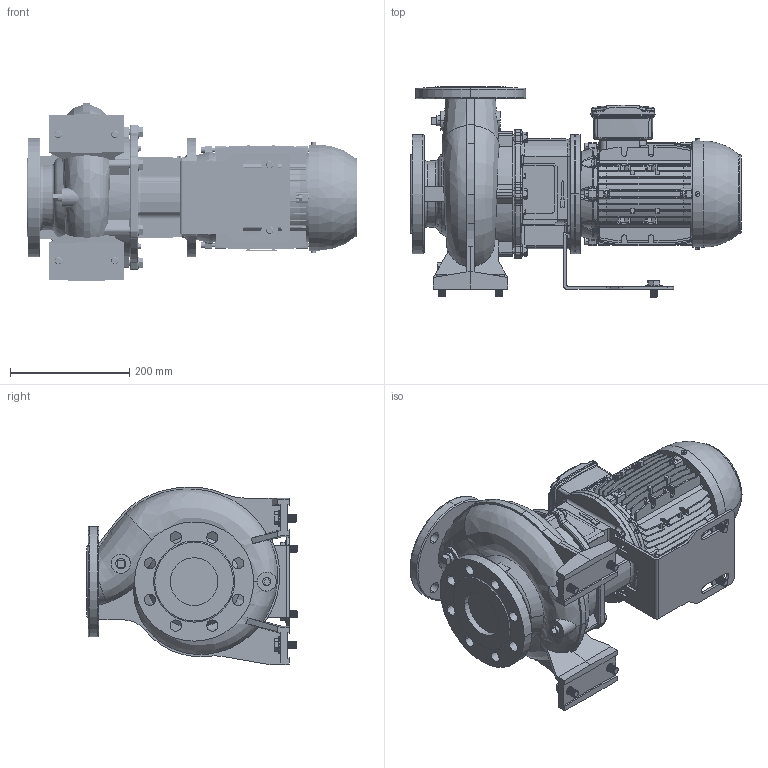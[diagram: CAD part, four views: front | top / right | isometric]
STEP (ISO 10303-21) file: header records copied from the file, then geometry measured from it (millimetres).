
FILE_DESCRIPTION (( 'STEP AP214' ), '1' );
FILE_NAME ('GSD4 65-125_1.1 & 1.5_(90SL)_W21.STEP', '2026-07-01T01:25:16', ( '' ), ( '' ), 'SwSTEP 2.0', 'SolidWorks 2024', '' );
FILE_SCHEMA (( 'AUTOMOTIVE_DESIGN' ));
Length unit declared in the file: millimetre
Products named in the file (9): Parametric bolt_SFT-A295B; Parametric bolt and washer_SFT-A295B; GSD4 65-125_1.1 & 1.5_(90SL)_W21; Parametric Flat Washer_M12; Parametric bolt and washer_SFT-A299B; 65-125-90S_L_ﾃﾞﾌｫﾙﾄ; 90S_L ALIE3_W21T_B5; Parametric bolt_SFT-A299B; CGSD1-4153
Assembly tree (13 placements, depth 3):
  GSD4 65-125_1.1 & 1.5_(90SL)_W21
    65-125-90S_L_ﾃﾞﾌｫﾙﾄ
    90S_L ALIE3_W21T_B5
    CGSD1-4153
    Parametric bolt and washer_SFT-A295B  x2
      Parametric bolt_SFT-A295B
      Parametric Flat Washer_M12
    Parametric bolt and washer_SFT-A299B  x4
      Parametric bolt_SFT-A299B
      Parametric Flat Washer_M12
Bounding box: 554 x 353 x 298.73 mm (x, y, z)
Volume: 14387021.8 mm3; surface area: 1175353 mm2
Topology: 17 solids, 21 shells, 3681 faces, 9681 edges, 6222 vertices
Faces by surface type: plane 1904, cylinder 1019, torus 298, bspline 256, cone 182, sphere 22
Entity records: 196186 total; most frequent: CARTESIAN_POINT 113721, ORIENTED_EDGE 18004, DIRECTION 15872, EDGE_CURVE 9002, VERTEX_POINT 5809, AXIS2_PLACEMENT_3D 5333, VECTOR 5206, LINE 5206
